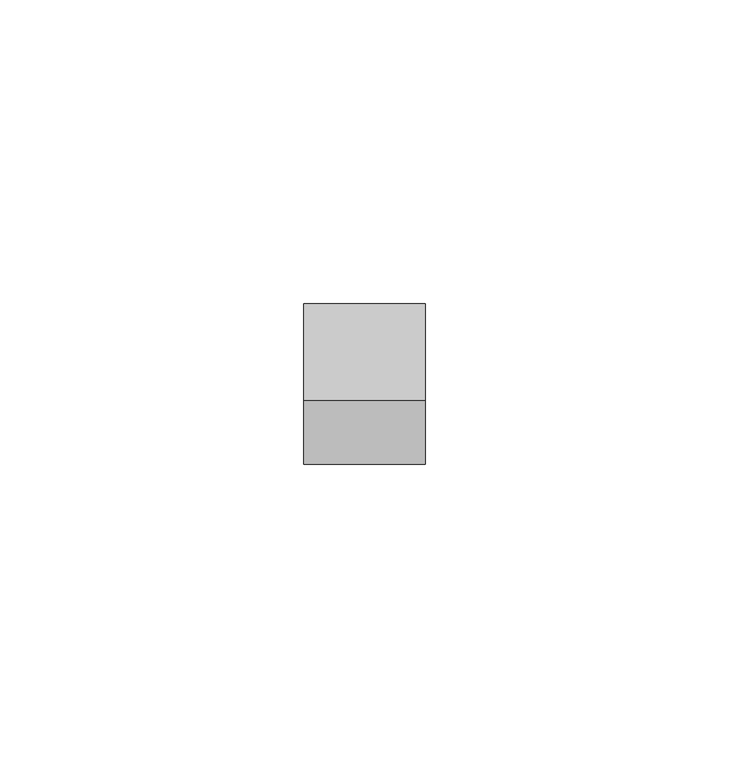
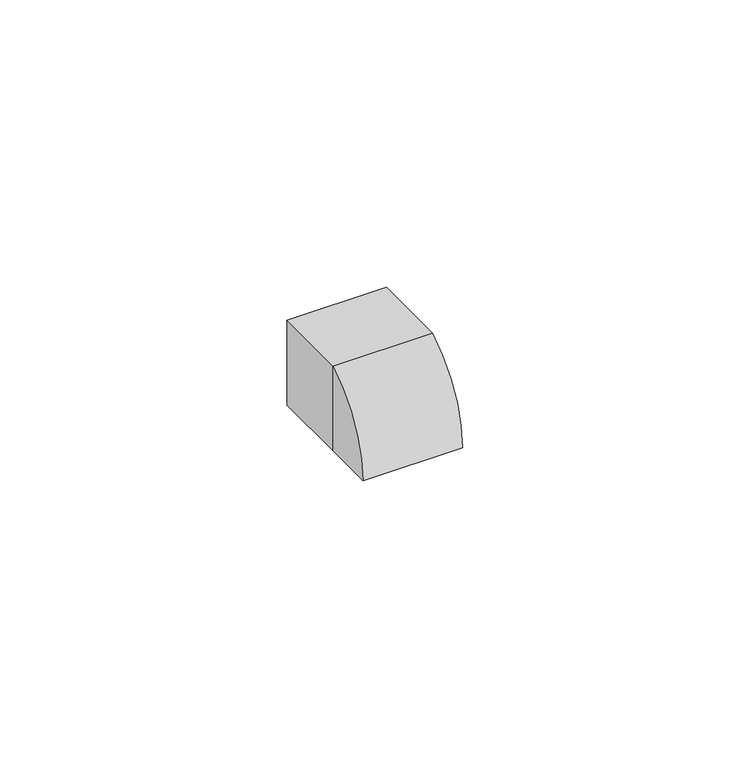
"""IFC4 building model written with IfcOpenShell, lengths in millimetres: proxy geometry, Заглушка_кабельной_трассы КМЗ : Заглушка кабельной трассы КМЗ 16х16."""

from ifc_helpers import new_model, si_unit, frame, origin, place, context, project, spatial, polyline, circle_curve, outline, extrude, source, transform, mapped, element, save
from ifc_brep_helpers import plane_surface, cylinder_surface, revolved_surface, advanced_brep


def generic_models_c2cfab9e(model_context):
    return source(origin(), model_context, "Body", "SolidModel", [
        advanced_brep(
        [(-32.0, -16.0, 0.0), (-32.0, -16.0, 18.0), (-32.0, -26.4694533, 0.0), (-52.0, -16.0, 0.0), (-52.0, -26.4694533, 0.0), (-52.0, -16.0, 18.0), (-34.0, -16.0, 0.0), (-34.0, -16.0, 16.0), (-50.0, -16.0, 16.0), (-50.0, -16.0, 0.0), (-50.0, -24.9302135, 0.0), (-34.0, -24.9302135, 0.0)],
        [
            (0, 1),
            (1, 2, circle_curve(frame((-32.0, -5.1340485, -0.3647388), z_axis=(1.0, 0.0, 0.0), x_axis=(0.0, 1.0, 0.0)), 21.3385223)),
            (2, 0),
            (3, 4),
            (4, 5, circle_curve(frame((-52.0, -5.1340485, -0.3647388), z_axis=(-1.0, 0.0, 0.0), x_axis=(0.0, 1.0, 0.0)), 21.3385223)),
            (5, 3),
            (0, 6),
            (6, 7),
            (7, 8),
            (8, 9),
            (9, 3),
            (5, 1),
            (4, 2),
            (9, 10),
            (10, 11),
            (11, 6),
            (11, 7, circle_curve(frame((-34.0, -4.8124322, -0.7363579), z_axis=(-1.0, 0.0, 0.0), x_axis=(0.0, 1.0, 0.0)), 20.131253)),
            (8, 10, circle_curve(frame((-50.0, -4.8124322, -0.7363579), z_axis=(1.0, 0.0, 0.0), x_axis=(0.0, 1.0, 0.0)), 20.131253)),
        ],
        [
            plane_surface(frame((-32.0, -16.0, 18.0), z_axis=(1.0, 0.0, 0.0), x_axis=(0.0, 0.0, 1.0))),
            plane_surface(frame((-52.0, -16.0, 18.0), z_axis=(-1.0, 0.0, 0.0), x_axis=(0.0, 0.0, -1.0))),
            plane_surface(frame((-32.0, -16.0, 0.0), z_axis=(0.0, 1.0, 0.0), x_axis=(-1.0, 0.0, 0.0))),
            cylinder_surface(frame((-52.0, -5.1340485, -0.3647388), z_axis=(1.0, 0.0, 0.0), x_axis=(0.0, 1.0, 0.0)), 21.3385223),
            plane_surface(frame((-32.0, -26.4694533, 0.0), z_axis=(0.0, 0.0, -1.0), x_axis=(-1.0, 0.0, 0.0))),
            plane_surface(frame((-34.0, -16.0, 16.0), z_axis=(-1.0, 0.0, 0.0), x_axis=(0.0, 0.0, 1.0))),
            plane_surface(frame((-50.0, -16.0, 16.0), z_axis=(1.0, 0.0, 0.0), x_axis=(0.0, 0.0, -1.0))),
            revolved_surface(polyline([(-34.0, 15.318820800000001, -0.7363579), (-50.0, 15.318820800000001, -0.7363579)]), (-50.0, -4.8124322, -0.7363579), (1.0, 0.0, 0.0)),
        ],
        [
            (0, [[1, 2, 3]]),
            (1, [[4, 5, 6]]),
            (2, [[-1, 7, 8, 9, 10, 11, -6, 12]]),
            (3, [[-2, -12, -5, 13]]),
            (4, [[-3, -13, -4, -11, 14, 15, 16, -7]]),
            (5, [[17, -8, -16]]),
            (6, [[18, -14, -10]]),
            (7, [[-17, -15, -18, -9]]),
        ],
    ),
        extrude(outline(polyline([(18.0, -32.0), (18.0, -52.0), (0.0, -52.0), (0.0, -50.0), (16.0, -50.0), (16.0, -34.0), (0.0, -34.0), (0.0, -32.0), (18.0, -32.0)])), frame((0.0, -16.0, 0.0), z_axis=(0.0, 1.0, 0.0), x_axis=(0.0, 0.0, 1.0)), (0.0, 0.0, 1.0), 16.0),
    ])


if __name__ == "__main__":
    model = new_model("IFC4")
    model_context = context("Model", 3, world=origin())
    ifc_project = project(units=[si_unit("LENGTHUNIT", "METRE", prefix="MILLI")], contexts=[model_context])
    site = spatial("IfcSite", under=ifc_project)
    building = spatial("IfcBuilding", under=site)
    placement = place(None, origin())
    generic_models_shape = generic_models_c2cfab9e(model_context)
    element("IfcBuildingElementProxy", 1, Name="Заглушка_кабельной_трассы КМЗ : Заглушка кабельной трассы КМЗ 16х16", ObjectType="Заглушка_кабельной_трассы КМЗ : Заглушка кабельной трассы КМЗ 16х16", at=placement, inside=building, context=model_context, shape_type="MappedRepresentation", body=[
        mapped(generic_models_shape, transform((0.0, 0.0, 0.0), x_axis=(1.0, 0.0, 0.0), y_axis=(0.0, 1.0, 0.0), z_axis=(0.0, 0.0, 1.0))),
    ])
    save(model, "model.ifc")
